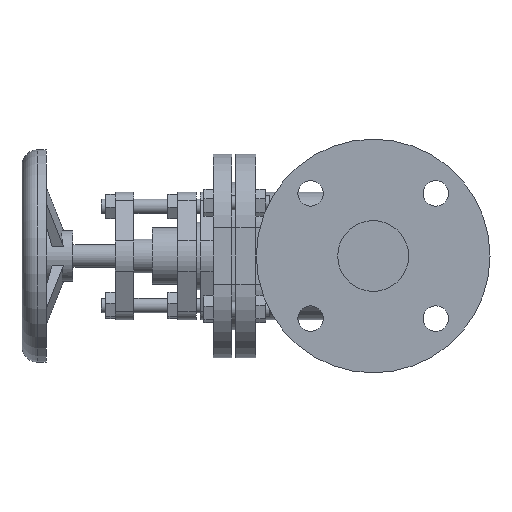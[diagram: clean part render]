
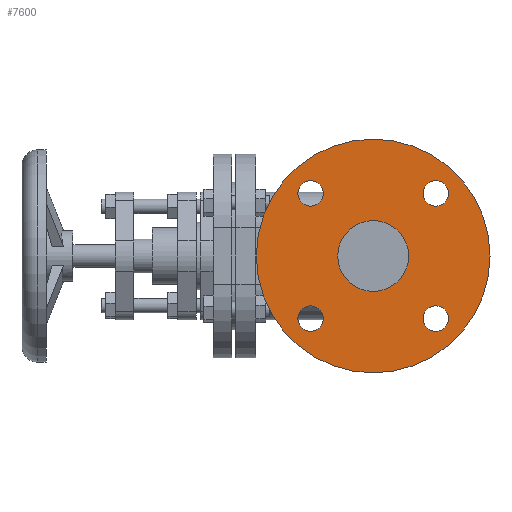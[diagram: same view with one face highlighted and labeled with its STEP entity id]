
A CAD part, left-side view. The second image highlights one B-rep face of the part: STEP entity #7600.
In plain terms, the highlighted planar face has unit normal (-1, 0, 0).
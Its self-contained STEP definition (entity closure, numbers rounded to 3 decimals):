
#172=FACE_BOUND('',#1434,.T.);
#173=FACE_BOUND('',#1435,.T.);
#174=FACE_BOUND('',#1436,.T.);
#175=FACE_BOUND('',#1437,.T.);
#176=FACE_BOUND('',#1438,.T.);
#585=PLANE('',#8100);
#973=FACE_OUTER_BOUND('',#1433,.T.);
#1433=EDGE_LOOP('',(#6672));
#1434=EDGE_LOOP('',(#6673));
#1435=EDGE_LOOP('',(#6674));
#1436=EDGE_LOOP('',(#6675));
#1437=EDGE_LOOP('',(#6676));
#1438=EDGE_LOOP('',(#6677));
#2876=CIRCLE('',#7641,9.);
#2878=CIRCLE('',#7644,9.);
#3008=CIRCLE('',#8092,9.);
#3010=CIRCLE('',#8095,9.);
#3011=CIRCLE('',#8097,25.);
#3013=CIRCLE('',#8101,82.5);
#3025=VERTEX_POINT('',#9807);
#3027=VERTEX_POINT('',#9813);
#3683=VERTEX_POINT('',#13118);
#3685=VERTEX_POINT('',#13124);
#3686=VERTEX_POINT('',#13128);
#3688=VERTEX_POINT('',#13135);
#3707=EDGE_CURVE('',#3025,#3025,#2876,.T.);
#3710=EDGE_CURVE('',#3027,#3027,#2878,.T.);
#4694=EDGE_CURVE('',#3683,#3683,#3008,.T.);
#4697=EDGE_CURVE('',#3685,#3685,#3010,.T.);
#4698=EDGE_CURVE('',#3686,#3686,#3011,.T.);
#4701=EDGE_CURVE('',#3688,#3688,#3013,.T.);
#6672=ORIENTED_EDGE('',*,*,#4701,.F.);
#6673=ORIENTED_EDGE('',*,*,#4697,.F.);
#6674=ORIENTED_EDGE('',*,*,#4694,.F.);
#6675=ORIENTED_EDGE('',*,*,#3707,.F.);
#6676=ORIENTED_EDGE('',*,*,#3710,.F.);
#6677=ORIENTED_EDGE('',*,*,#4698,.T.);
#7600=ADVANCED_FACE('',(#973,#172,#173,#174,#175,#176),#585,.T.);
#7641=AXIS2_PLACEMENT_3D('',#9809,#8138,#8139);
#7644=AXIS2_PLACEMENT_3D('',#9815,#8145,#8146);
#8092=AXIS2_PLACEMENT_3D('',#13120,#9729,#9730);
#8095=AXIS2_PLACEMENT_3D('',#13126,#9736,#9737);
#8097=AXIS2_PLACEMENT_3D('',#13129,#9740,#9741);
#8100=AXIS2_PLACEMENT_3D('',#13134,#9747,#9748);
#8101=AXIS2_PLACEMENT_3D('',#13136,#9749,#9750);
#8138=DIRECTION('center_axis',(-1.,0.,0.));
#8139=DIRECTION('ref_axis',(0.,0.457,-0.889));
#8145=DIRECTION('center_axis',(-1.,0.,0.));
#8146=DIRECTION('ref_axis',(0.,0.457,0.889));
#9729=DIRECTION('center_axis',(-1.,0.,0.));
#9730=DIRECTION('ref_axis',(0.,-0.889,-0.457));
#9736=DIRECTION('center_axis',(-1.,0.,0.));
#9737=DIRECTION('ref_axis',(0.,-0.457,0.889));
#9740=DIRECTION('center_axis',(1.,0.,0.));
#9741=DIRECTION('ref_axis',(0.,0.,-1.));
#9747=DIRECTION('center_axis',(-1.,0.,0.));
#9748=DIRECTION('ref_axis',(0.,0.,1.));
#9749=DIRECTION('center_axis',(1.,0.,0.));
#9750=DIRECTION('ref_axis',(0.,0.,1.));
#9807=CARTESIAN_POINT('',(-101.826,-56.81,-35.194));
#9809=CARTESIAN_POINT('Origin',(-101.826,-56.81,-44.194));
#9813=CARTESIAN_POINT('',(-101.826,-56.81,53.194));
#9815=CARTESIAN_POINT('Origin',(-101.826,-56.81,44.194));
#13118=CARTESIAN_POINT('',(-101.826,-145.198,-35.194));
#13120=CARTESIAN_POINT('Origin',(-101.826,-145.198,-44.194));
#13124=CARTESIAN_POINT('',(-101.826,-145.198,53.194));
#13126=CARTESIAN_POINT('Origin',(-101.826,-145.198,44.194));
#13128=CARTESIAN_POINT('',(-101.826,-101.004,25.));
#13129=CARTESIAN_POINT('Origin',(-101.826,-101.004,0.));
#13134=CARTESIAN_POINT('Origin',(-101.826,-75.504,0.));
#13135=CARTESIAN_POINT('',(-101.826,-183.504,0.));
#13136=CARTESIAN_POINT('Origin',(-101.826,-101.004,0.));
